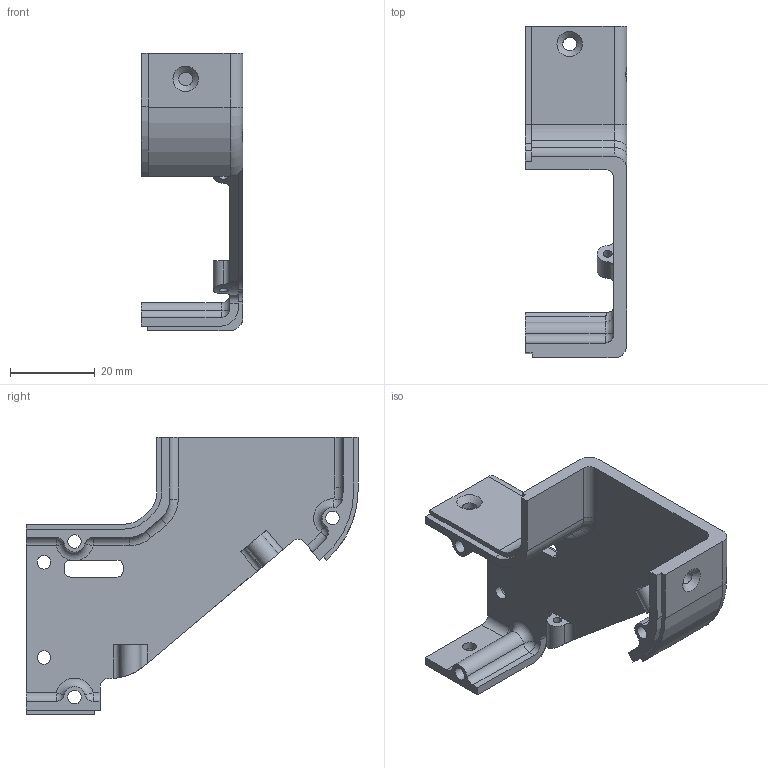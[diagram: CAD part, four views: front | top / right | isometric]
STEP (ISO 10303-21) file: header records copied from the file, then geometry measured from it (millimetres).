
FILE_DESCRIPTION(/* description */ (''),/* implementation_level */ '2;1');
FILE_NAME(/* name */ 'Cannula Holder Right.step',/* time_stamp */ '2026-10-23T15:38:29+05:30',/* author */ (''),/* organization */ (''),/* preprocessor_version */ 'ST-DEVELOPER v20.2',/* originating_system */ 'Autodesk Translation Framework v15.15.0.0',/* authorisation */ '');
FILE_SCHEMA (('AUTOMOTIVE_DESIGN { 1 0 10303 214 3 1 1 }'));
Length unit declared in the file: millimetre
Products named in the file (1): 2026-10-23-15-38-29-084
Bounding box: 24 x 78.5 x 65.5 mm (x, y, z)
Volume: 15485 mm3; surface area: 12031.7 mm2
Topology: 1 solids, 1 shells, 137 faces, 376 edges, 241 vertices
Faces by surface type: cylinder 65, plane 50, torus 10, sphere 6, cone 5, bspline 1
Full cylindrical faces by diameter (mm): 2.075 x2, 3.2 x8, 4.5 x3
Entity records: 4676 total; most frequent: CARTESIAN_POINT 1004, DIRECTION 793, ORIENTED_EDGE 752, EDGE_CURVE 376, AXIS2_PLACEMENT_3D 295, VERTEX_POINT 241, LINE 203, VECTOR 203
